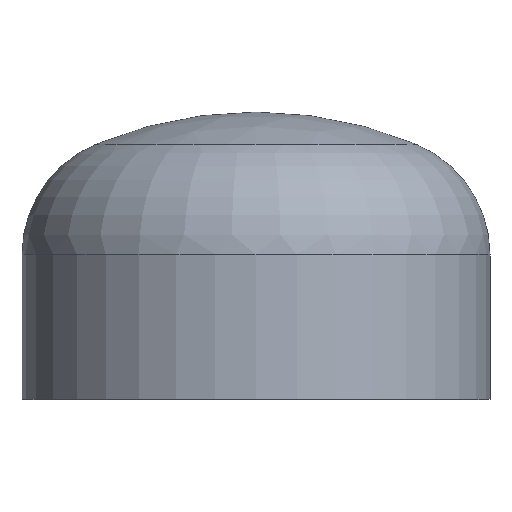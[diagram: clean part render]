
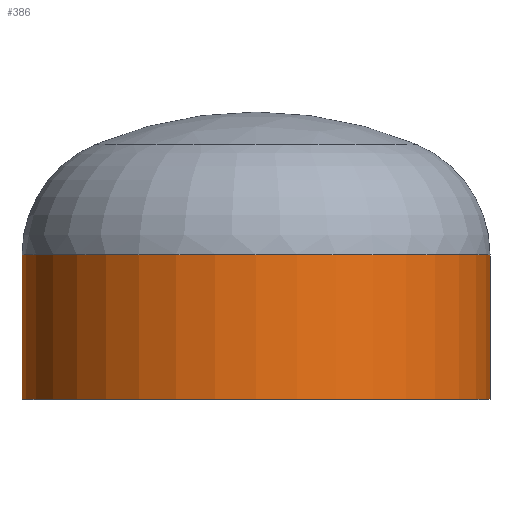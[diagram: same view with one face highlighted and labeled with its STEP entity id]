
A CAD part, top view. The second image highlights one B-rep face of the part: STEP entity #386.
In plain terms, the highlighted cylindrical face has radius 161.95 mm (diameter 323.9 mm), a partial arc.
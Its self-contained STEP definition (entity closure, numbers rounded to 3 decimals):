
#47 = AXIS2_PLACEMENT_3D ( 'NONE', #346, #373, #374 ) ;
#48 = AXIS2_PLACEMENT_3D ( 'NONE', #344, #340, #363 ) ;
#50 = ORIENTED_EDGE ( 'NONE', *, *, #69, .T. ) ;
#58 = EDGE_CURVE ( 'NONE', #129, #115, #348, .T. ) ;
#63 = EDGE_CURVE ( 'NONE', #222, #122, #209, .T. ) ;
#67 = EDGE_CURVE ( 'NONE', #122, #115, #405, .T. ) ;
#69 = EDGE_CURVE ( 'NONE', #222, #129, #343, .T. ) ;
#76 = CARTESIAN_POINT ( 'NONE',  ( 161.95, 100., 0. ) ) ;
#107 = AXIS2_PLACEMENT_3D ( 'NONE', #377, #230, #228 ) ;
#115 = VERTEX_POINT ( 'NONE', #179 ) ;
#122 = VERTEX_POINT ( 'NONE', #327 ) ;
#129 = VERTEX_POINT ( 'NONE', #223 ) ;
#179 = CARTESIAN_POINT ( 'NONE',  ( -161.95, 0., 0. ) ) ;
#205 = ORIENTED_EDGE ( 'NONE', *, *, #63, .F. ) ;
#209 = LINE ( 'NONE', #241, #400 ) ;
#222 = VERTEX_POINT ( 'NONE', #76 ) ;
#223 = CARTESIAN_POINT ( 'NONE',  ( -161.95, 100., 0. ) ) ;
#226 = EDGE_LOOP ( 'NONE', ( #50, #368, #240, #205 ) ) ;
#228 = DIRECTION ( 'NONE',  ( 1., 0., 0. ) ) ;
#230 = DIRECTION ( 'NONE',  ( 0., -1., 0. ) ) ;
#240 = ORIENTED_EDGE ( 'NONE', *, *, #67, .F. ) ;
#241 = CARTESIAN_POINT ( 'NONE',  ( 161.95, 0., 0. ) ) ;
#245 = CARTESIAN_POINT ( 'NONE',  ( -161.95, 0., 0. ) ) ;
#247 = DIRECTION ( 'NONE',  ( 0., -1., 0. ) ) ;
#265 = CYLINDRICAL_SURFACE ( 'NONE', #107, 161.95 ) ;
#279 = VECTOR ( 'NONE', #247, 1000. ) ;
#327 = CARTESIAN_POINT ( 'NONE',  ( 161.95, 0., 0. ) ) ;
#332 = DIRECTION ( 'NONE',  ( 0., -1., 0. ) ) ;
#340 = DIRECTION ( 'NONE',  ( 0., -1., 0. ) ) ;
#343 = CIRCLE ( 'NONE', #47, 161.95 ) ;
#344 = CARTESIAN_POINT ( 'NONE',  ( 0., 0., 0. ) ) ;
#346 = CARTESIAN_POINT ( 'NONE',  ( 0., 100., 0. ) ) ;
#348 = LINE ( 'NONE', #245, #279 ) ;
#363 = DIRECTION ( 'NONE',  ( 1., 0., 0. ) ) ;
#368 = ORIENTED_EDGE ( 'NONE', *, *, #58, .T. ) ;
#373 = DIRECTION ( 'NONE',  ( 0., -1., 0. ) ) ;
#374 = DIRECTION ( 'NONE',  ( 1., 0., 0. ) ) ;
#377 = CARTESIAN_POINT ( 'NONE',  ( 0., 0., 0. ) ) ;
#386 = ADVANCED_FACE ( 'NONE', ( #396 ), #265, .T. ) ;
#396 = FACE_OUTER_BOUND ( 'NONE', #226, .T. ) ;
#400 = VECTOR ( 'NONE', #332, 1000. ) ;
#405 = CIRCLE ( 'NONE', #48, 161.95 ) ;
